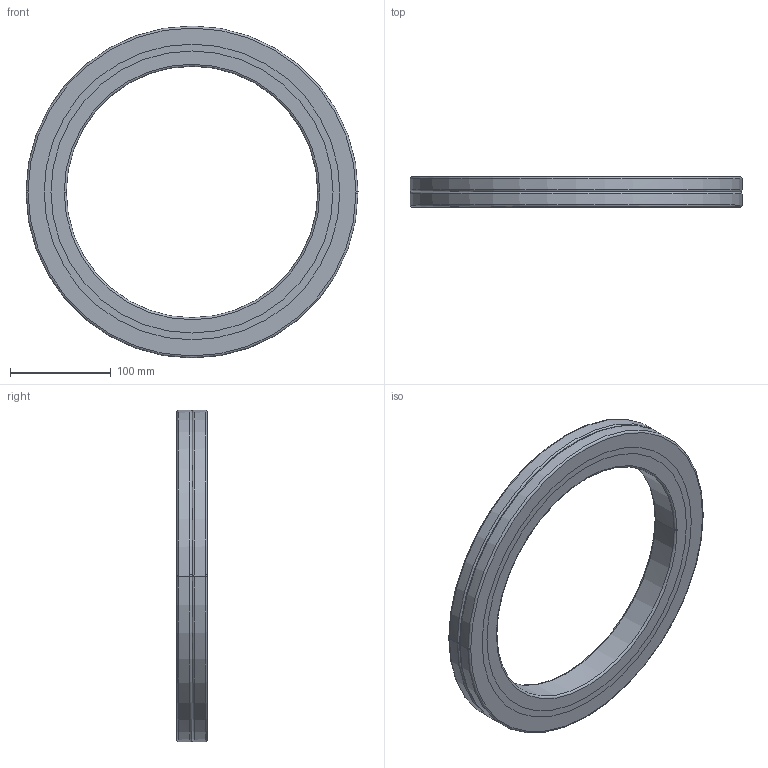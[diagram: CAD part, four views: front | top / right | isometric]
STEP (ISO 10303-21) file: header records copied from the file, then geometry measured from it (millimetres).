
FILE_DESCRIPTION(('no description'),'unknown implementation level');
FILE_NAME('CRBA25030_45.stp',' ',('HIWIN GmbH'),('CADClick - KiM GmbH - www.kimweb.de'),'unknown preprocess','ACIS','unknown authorization');
FILE_SCHEMA(('automotive_design'));
Length unit declared in the file: millimetre
Products named in the file (5): CRBA25030_1; CRBA25030_2; CRBA25030_3; CRBA25030_4; CRBA25030
Bounding box: 330 x 30 x 330 mm (x, y, z)
Volume: 934985.8 mm3; surface area: 233352.7 mm2
Topology: 5 solids, 5 shells, 54 faces, 120 edges, 76 vertices
Faces by surface type: torus 24, cylinder 20, plane 10
Entity records: 3096 total; most frequent: DIRECTION 338, STYLED_ITEM 255, PRESENTATION_STYLE_ASSIGNMENT 255, CARTESIAN_POINT 255, COLOUR_RGB 255, ORIENTED_EDGE 240, AXIS2_PLACEMENT_3D 159, EDGE_CURVE 120
